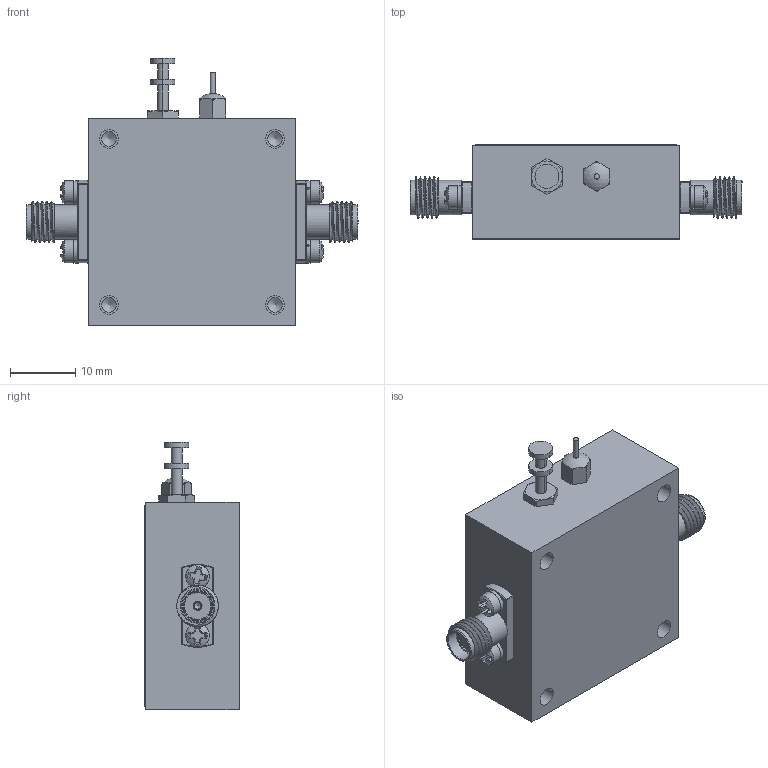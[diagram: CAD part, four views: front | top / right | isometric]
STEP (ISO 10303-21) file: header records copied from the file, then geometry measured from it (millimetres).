
FILE_DESCRIPTION (( 'STEP AP214' ), '1' );
FILE_NAME ('LNA-32-0D3M90M-3D0-10-12-SFF.STEP', '2024-04-04T17:54:56', ( '' ), ( '' ), 'SwSTEP 2.0', 'SolidWorks 2023', '' );
FILE_SCHEMA (( 'AUTOMOTIVE_DESIGN' ));
Length unit declared in the file: inch
Products named in the file (1): LNA-32-0D3M90M-3D0-10-12-SFF
Bounding box: 50.8 x 14.4 x 40.89 mm (x, y, z)
Volume: 15150.2 mm3; surface area: 7501.5 mm2
Topology: 18 solids, 18 shells, 592 faces, 2624 edges, 2275 vertices
Faces by surface type: plane 363, cylinder 111, torus 52, cone 38, sphere 22, bspline 6
Full cylindrical faces by diameter (mm): 0.305 x2, 0.559 x2, 0.813 x2, 1.016 x2, 1.27 x2, 2.057 x1, 2.184 x4, 2.261 x4, 2.591 x4, 2.845 x5, 3.302 x2, 3.556 x4, 4.191 x4, 4.597 x2, 5.283 x4
Entity records: 44563 total; most frequent: CARTESIAN_POINT 15805, ORIENTED_EDGE 4996, DIRECTION 3269, EDGE_CURVE 2498, VERTEX_POINT 2259, LINE 1325, VECTOR 1325, AXIS2_PLACEMENT_3D 972
